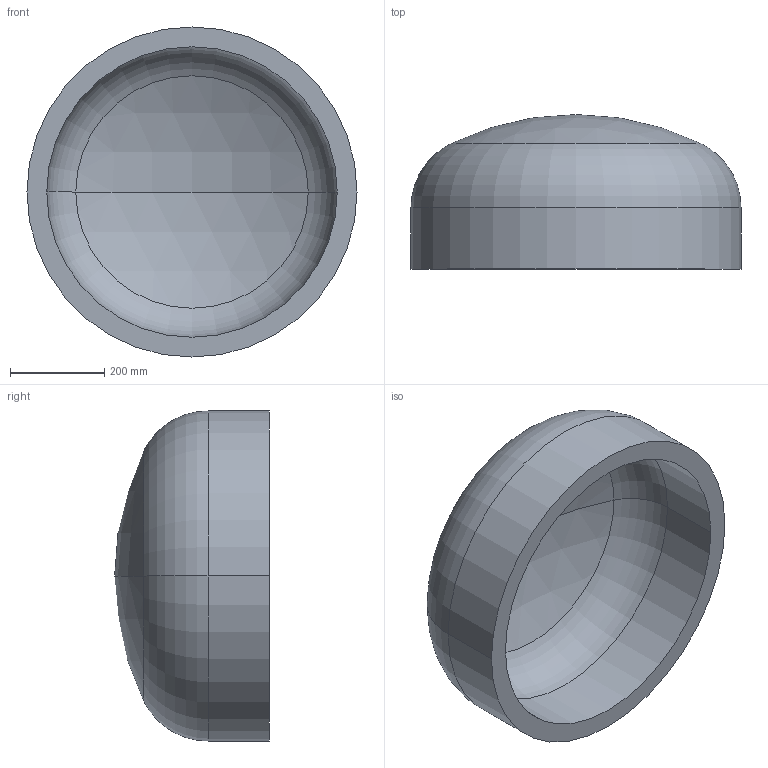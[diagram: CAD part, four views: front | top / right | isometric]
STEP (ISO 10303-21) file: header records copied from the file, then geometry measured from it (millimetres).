
FILE_DESCRIPTION (( 'STEP AP203' ), '1' );
FILE_NAME ('DIN 28013 Korbbogenform_-_Boden DIN 28013 - 700 x 130 - I - s=42.step', '2016-07-01T08:07:52', ( '' ), ( '' ), 'SwSTEP 2.0', 'SolidWorks 2013', '' );
FILE_SCHEMA (( 'CONFIG_CONTROL_DESIGN' ));
Length unit declared in the file: millimetre
Products named in the file (1): DIN 28013 Korbbogenform_-_Boden DIN 28013 - 700 x 130 - I - s=42
Bounding box: 700 x 327.9 x 700 mm (x, y, z)
Volume: 32112042.7 mm3; surface area: 1619660.2 mm2
Topology: 1 solids, 1 shells, 13 faces, 24 edges, 14 vertices
Faces by surface type: torus 4, cylinder 4, sphere 4, plane 1
Entity records: 407 total; most frequent: DIRECTION 72, CARTESIAN_POINT 52, ORIENTED_EDGE 48, AXIS2_PLACEMENT_3D 34, EDGE_CURVE 24, CIRCLE 20, VERTEX_POINT 14, EDGE_LOOP 14
